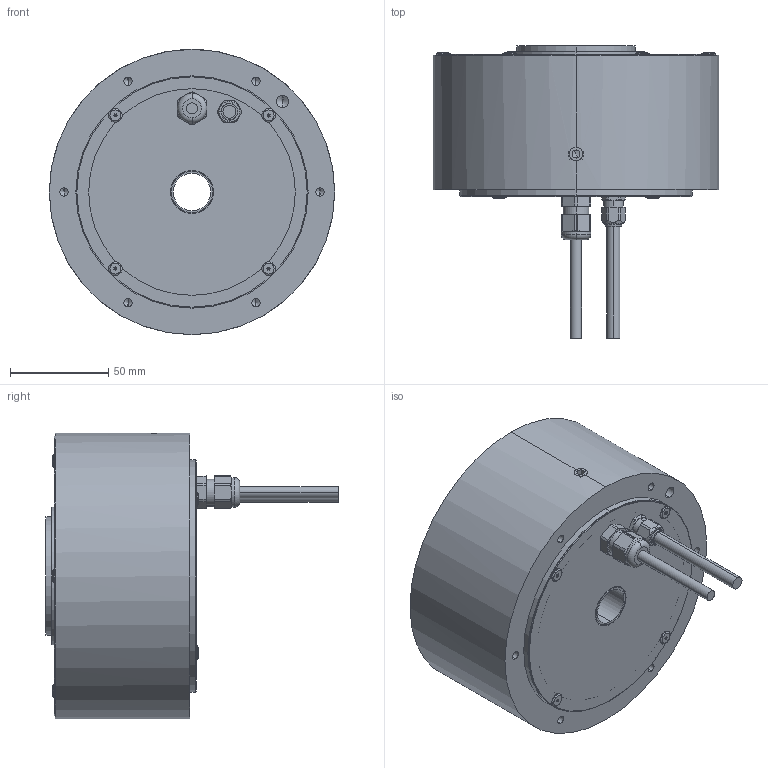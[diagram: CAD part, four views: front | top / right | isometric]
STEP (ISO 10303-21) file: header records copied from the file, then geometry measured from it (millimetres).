
FILE_DESCRIPTION (( 'STEP AP214' ), '1' );
FILE_NAME ('ND140-70-LS-UC(ABS).step', '2025-03-11T00:11:12', ( '' ), ( '' ), 'SwSTEP 2.0', 'SolidWorks 2024', '' );
FILE_SCHEMA (( 'AUTOMOTIVE_DESIGN' ));
Length unit declared in the file: millimetre
Products named in the file (1): ND140-70-LS-UC(ABS)
Bounding box: 145 x 148.5 x 145 mm (x, y, z)
Volume: 428588.2 mm3; surface area: 150389.4 mm2
Topology: 17 solids, 17 shells, 680 faces, 1708 edges, 1049 vertices
Faces by surface type: cylinder 378, cone 137, plane 111, torus 32, sphere 22
Entity records: 21287 total; most frequent: CARTESIAN_POINT 4950, DIRECTION 3532, ORIENTED_EDGE 3264, EDGE_CURVE 1632, AXIS2_PLACEMENT_3D 1453, VERTEX_POINT 1049, EDGE_LOOP 777, CIRCLE 772
